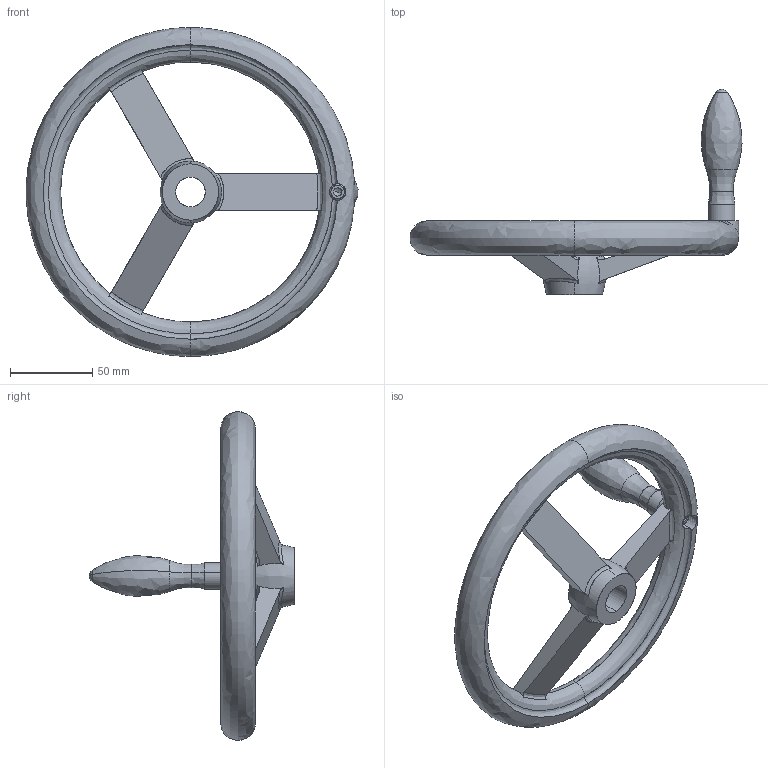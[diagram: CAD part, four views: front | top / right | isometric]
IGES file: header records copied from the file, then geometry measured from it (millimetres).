
Start section: SolidWorks IGES file using analytic representation for surfaces
Global section: file name: C:\Users\IanO\Desktop\Temp File\Process pending\77120_v2\77120_v2_20171108_IGES\77120.W0430.igs; native system: SolidWorks 2017; preprocessor: SolidWorks 2017; author: IanO; date: 171108.083732; units: millimetre
Bounding box: 201.87 x 125 x 200 mm (x, y, z)
Surface area: 60343.1 mm2 (no closed solid volume)
Topology: 0 solids, 0 shells, 115 faces, 1562 edges, 1555 vertices
Faces by surface type: bspline 65, revolution 50
